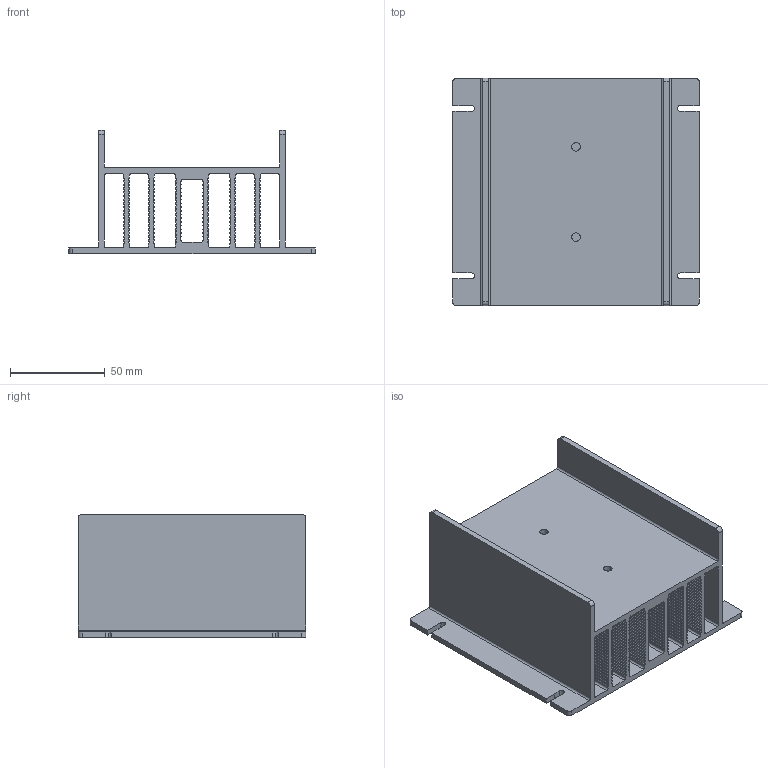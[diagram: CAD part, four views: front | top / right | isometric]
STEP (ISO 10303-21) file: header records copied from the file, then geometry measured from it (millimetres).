
FILE_DESCRIPTION(/* description */ (''),/* implementation_level */ '2;1');
FILE_NAME(/* name */ '大号散热器.stp',/* time_stamp */ '2025-06-18T15:58:24+08:00',/* author */ (''),/* organization */ (''),/* preprocessor_version */ 'ST-DEVELOPER v19.4',/* originating_system */ 'SIEMENS PLM Software NX2306.9141',/* authorisation */ '');
FILE_SCHEMA (('AUTOMOTIVE_DESIGN { 1 0 10303 214 3 1 1 1 }'));
Length unit declared in the file: inch
Products named in the file (1): 大号散热器.step_sldprt_objects
Bounding box: 130 x 120 x 65 mm (x, y, z)
Volume: 205696.5 mm3; surface area: 144053.3 mm2
Topology: 1 solids, 1 shells, 765 faces, 2355 edges, 1590 vertices
Faces by surface type: cylinder 666, bspline 50, plane 49
Entity records: 26299 total; most frequent: CARTESIAN_POINT 10905, ORIENTED_EDGE 4710, EDGE_CURVE 2355, DIRECTION 1643, VERTEX_POINT 1590, B_SPLINE_CURVE_WITH_KNOTS 820, EDGE_LOOP 785, ADVANCED_FACE 765
